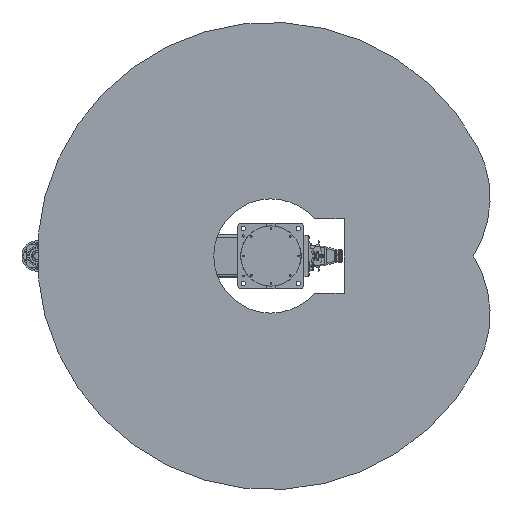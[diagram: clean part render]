
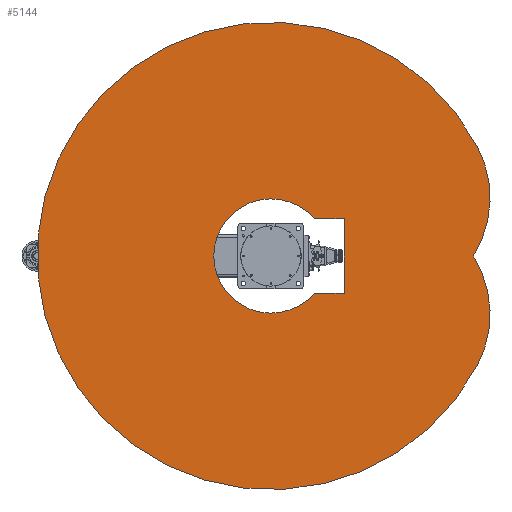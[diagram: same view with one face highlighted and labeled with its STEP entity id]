
A CAD part, front view. The second image highlights one B-rep face of the part: STEP entity #5144.
In plain terms, the highlighted planar face has unit normal (0, -1, 0).
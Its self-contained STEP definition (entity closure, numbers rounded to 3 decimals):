
#5144 = ADVANCED_FACE( '', ( #11806, #11807 ), #11808, .F. );
#11806 = FACE_BOUND( '', #20683, .T. );
#11807 = FACE_OUTER_BOUND( '', #20684, .T. );
#11808 = PLANE( '', #20685 );
#20683 = EDGE_LOOP( '', ( #36020, #36021, #36022, #36023 ) );
#20684 = EDGE_LOOP( '', ( #36024, #36025, #36026 ) );
#20685 = AXIS2_PLACEMENT_3D( '', #36027, #36028, #36029 );
#36020 = ORIENTED_EDGE( '', *, *, #50700, .T. );
#36021 = ORIENTED_EDGE( '', *, *, #50701, .T. );
#36022 = ORIENTED_EDGE( '', *, *, #50702, .T. );
#36023 = ORIENTED_EDGE( '', *, *, #48808, .T. );
#36024 = ORIENTED_EDGE( '', *, *, #50293, .F. );
#36025 = ORIENTED_EDGE( '', *, *, #50703, .F. );
#36026 = ORIENTED_EDGE( '', *, *, #50704, .F. );
#36027 = CARTESIAN_POINT( '', ( 105.631, 0., 198.663 ) );
#36028 = DIRECTION( '', ( 0., 1., 0. ) );
#36029 = DIRECTION( '', ( 0., 0., 1. ) );
#48808 = EDGE_CURVE( '', #59047, #59048, #59049, .T. );
#50293 = EDGE_CURVE( '', #61183, #61184, #61185, .T. );
#50700 = EDGE_CURVE( '', #59048, #61727, #61728, .T. );
#50701 = EDGE_CURVE( '', #61727, #61729, #61730, .T. );
#50702 = EDGE_CURVE( '', #61729, #59047, #61731, .T. );
#50703 = EDGE_CURVE( '', #61732, #61183, #61733, .T. );
#50704 = EDGE_CURVE( '', #61184, #61732, #61734, .T. );
#59047 = VERTEX_POINT( '', #74975 );
#59048 = VERTEX_POINT( '', #74976 );
#59049 = LINE( '', #74977, #74978 );
#61183 = VERTEX_POINT( '', #78659 );
#61184 = VERTEX_POINT( '', #78660 );
#61185 = CIRCLE( '', #78661, 400. );
#61727 = VERTEX_POINT( '', #79529 );
#61728 = LINE( '', #79530, #79531 );
#61729 = VERTEX_POINT( '', #79532 );
#61730 = CIRCLE( '', #79533, 207.8 );
#61731 = LINE( '', #79534, #79535 );
#61732 = VERTEX_POINT( '', #79536 );
#61733 = CIRCLE( '', #79537, 400. );
#61734 = CIRCLE( '', #79538, 850. );
#74975 = CARTESIAN_POINT( '', ( -135., 0., 267. ) );
#74976 = CARTESIAN_POINT( '', ( 135., 0., 267. ) );
#74977 = CARTESIAN_POINT( '', ( -135., 0., 267. ) );
#74978 = VECTOR( '', #88406, 1000. );
#78659 = CARTESIAN_POINT( '', ( 0., 0., 736.985 ) );
#78660 = CARTESIAN_POINT( '', ( 399.051, 0., 750.505 ) );
#78661 = AXIS2_PLACEMENT_3D( '', #90032, #90033, #90034 );
#79529 = CARTESIAN_POINT( '', ( 135., 0., 157.974 ) );
#79530 = CARTESIAN_POINT( '', ( 135., 0., 267. ) );
#79531 = VECTOR( '', #90494, 1000. );
#79532 = CARTESIAN_POINT( '', ( -135., 0., 157.974 ) );
#79533 = AXIS2_PLACEMENT_3D( '', #90495, #90496, #90497 );
#79534 = CARTESIAN_POINT( '', ( -135., 0., 157.974 ) );
#79535 = VECTOR( '', #90498, 1000. );
#79536 = CARTESIAN_POINT( '', ( -399.051, 0., 750.505 ) );
#79537 = AXIS2_PLACEMENT_3D( '', #90499, #90500, #90501 );
#79538 = AXIS2_PLACEMENT_3D( '', #90502, #90503, #90504 );
#88406 = DIRECTION( '', ( 1., 0., 0. ) );
#90032 = CARTESIAN_POINT( '', ( 211.262, 0., 397.326 ) );
#90033 = DIRECTION( '', ( 0., 1., 0. ) );
#90034 = DIRECTION( '', ( 1., 0., 0. ) );
#90494 = DIRECTION( '', ( 0., 0., -1. ) );
#90495 = CARTESIAN_POINT( '', ( 0., 0., 0. ) );
#90496 = DIRECTION( '', ( 0., 1., 0. ) );
#90497 = DIRECTION( '', ( 1., 0., 0. ) );
#90498 = DIRECTION( '', ( 0., 0., 1. ) );
#90499 = CARTESIAN_POINT( '', ( -211.262, 0., 397.326 ) );
#90500 = DIRECTION( '', ( 0., 1., 0. ) );
#90501 = DIRECTION( '', ( 1., 0., 0. ) );
#90502 = CARTESIAN_POINT( '', ( 0., 0., 0. ) );
#90503 = DIRECTION( '', ( 0., 1., 0. ) );
#90504 = DIRECTION( '', ( 1., 0., 0. ) );
